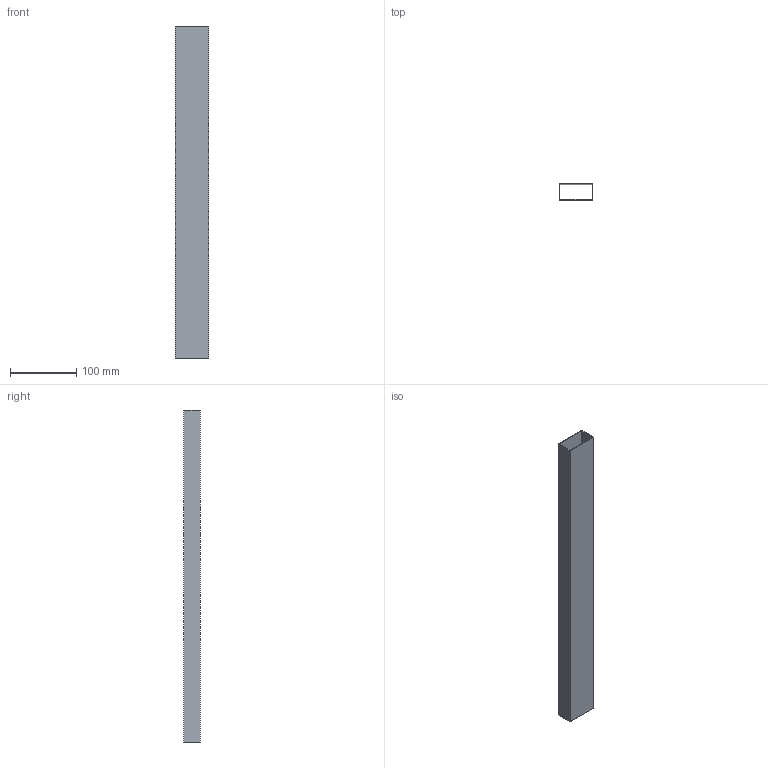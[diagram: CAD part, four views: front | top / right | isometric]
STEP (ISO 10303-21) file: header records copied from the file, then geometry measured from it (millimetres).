
FILE_DESCRIPTION (( 'STEP AP203' ), '1' );
FILE_NAME ('25X50X500(281808).STEP', '2019-09-17T02:37:14', ( '' ), ( '' ), 'SwSTEP 2.0', 'SolidWorks 2018', '' );
FILE_SCHEMA (( 'CONFIG_CONTROL_DESIGN' ));
Length unit declared in the file: millimetre
Products named in the file (2): 25X50X500(281808)
Bounding box: 50 x 25 x 500 mm (x, y, z)
Volume: 58720 mm3; surface area: 147034.9 mm2
Topology: 1 solids, 1 shells, 10 faces, 24 edges, 16 vertices
Faces by surface type: plane 10
Entity records: 447 total; most frequent: CARTESIAN_POINT 52, DIRECTION 48, ORIENTED_EDGE 48, LINE 24, VECTOR 24, EDGE_CURVE 24, VERTEX_POINT 16, PERSON_AND_ORGANIZATION 16
